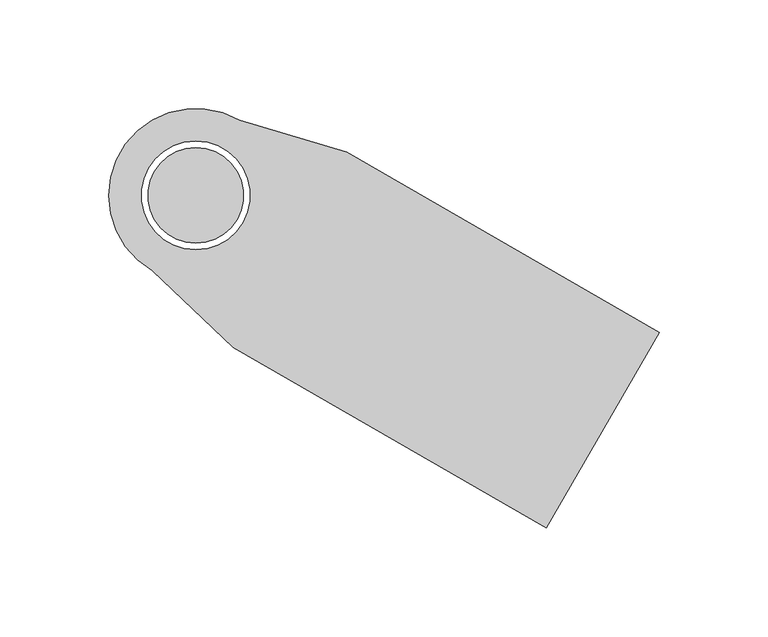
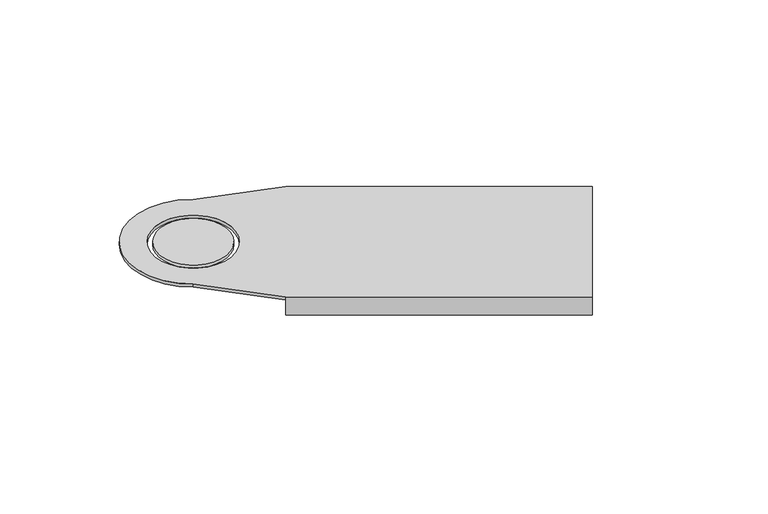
"""IFC4 building model written with IfcOpenShell, lengths in millimetres: cable carrier fitting geometry, BAKS_LDLS_BEND_Articulated connector for LLDS_LGSU : LGSUC_H100."""

from ifc_helpers import new_model, si_unit, frame, origin, place, context, project, spatial, polyline, circle_curve, source, transform, mapped, element, save
from ifc_brep_helpers import plane_surface, cylinder_surface, revolved_surface, advanced_brep


def cable_carrier_fitting_eae05feb(model_context):
    return source(origin(), model_context, "Body", "AdvancedBrep", [
        advanced_brep(
        [(161.0614872, -153.033321, 2.0), (213.0614872, -62.966679, 2.0), (69.3012702, 20.033321, 2.0), (20.0, 34.6410162, 2.0), (-20.0, -34.6410162, 2.0), (17.3012702, -70.033321, 2.0), (-21.6506351, 12.5, 2.0), (21.6506351, -12.5, 2.0), (69.3012702, 20.033321, 0.0), (68.3012702, 18.3012702, 0.0), (212.0614872, -64.6987298, 0.0), (162.0614872, -151.3012702, 0.0), (18.3012702, -68.3012702, 0.0), (17.3012702, -70.033321, 0.0), (-20.0, -34.6410162, 0.0), (20.0, 34.6410162, 0.0), (21.6506351, -12.5, 0.0), (-21.6506351, 12.5, 0.0), (17.3012702, -70.033321, -10.0), (161.0614872, -153.033321, -10.0), (213.0614872, -62.966679, -10.0), (69.3012702, 20.033321, -10.0), (162.0614872, -151.3012702, -10.0), (212.0614872, -64.6987298, -10.0), (68.3012702, 18.3012702, -10.0), (18.3012702, -68.3012702, -10.0)],
        [
            (0, 1),
            (1, 2),
            (2, 3),
            (3, 4, circle_curve(frame((0.0, 0.0, 2.0), z_axis=(0.0, 0.0, 1.0), x_axis=(0.8660254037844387, -0.49999999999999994, 0.0)), 40.0)),
            (4, 5),
            (5, 0),
            (6, 7, circle_curve(frame((0.0, 0.0, 2.0), z_axis=(0.0, 0.0, -1.0), x_axis=(0.8660254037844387, -0.49999999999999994, 0.0)), 25.0)),
            (7, 6, circle_curve(frame((0.0, 0.0, 2.0), z_axis=(0.0, 0.0, -1.0), x_axis=(0.8660254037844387, -0.49999999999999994, 0.0)), 25.0)),
            (8, 9),
            (9, 10),
            (10, 11),
            (11, 12),
            (12, 13),
            (13, 14),
            (14, 15, circle_curve(frame((0.0, 0.0, 0.0), z_axis=(0.0, 0.0, -1.0), x_axis=(0.8660254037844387, -0.49999999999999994, 0.0)), 40.0)),
            (15, 8),
            (16, 17, circle_curve(frame((0.0, 0.0, 0.0), z_axis=(0.0, 0.0, 1.0), x_axis=(0.8660254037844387, -0.49999999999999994, 0.0)), 25.0)),
            (17, 16, circle_curve(frame((0.0, 0.0, 0.0), z_axis=(0.0, 0.0, 1.0), x_axis=(0.8660254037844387, -0.49999999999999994, 0.0)), 25.0)),
            (5, 13),
            (13, 18),
            (18, 19),
            (19, 0),
            (1, 20),
            (20, 21),
            (21, 8),
            (8, 2),
            (19, 22),
            (22, 11),
            (10, 23),
            (23, 20),
            (7, 16),
            (17, 6),
            (4, 14),
            (3, 15),
            (23, 24),
            (24, 21),
            (9, 24),
            (18, 25),
            (25, 22),
            (12, 25),
        ],
        [
            plane_surface(frame((17.3012702, -70.033321, 2.0), z_axis=(0.0, 0.0, 1.0), x_axis=(-0.8660254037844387, 0.49999999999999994, 0.0))),
            plane_surface(frame((17.3012702, -70.033321, 0.0), z_axis=(0.0, 0.0, -1.0), x_axis=(0.8660254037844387, -0.49999999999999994, 0.0))),
            plane_surface(frame((161.0614872, -153.033321, 2.0), z_axis=(-0.49999999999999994, -0.8660254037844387, 0.0), x_axis=(0.0, 0.0, -1.0))),
            plane_surface(frame((69.3012702, 20.033321, 2.0), z_axis=(0.49999999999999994, 0.8660254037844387, 0.0), x_axis=(0.0, 0.0, -1.0))),
            plane_surface(frame((213.0614872, -62.966679, 2.0), z_axis=(0.8660254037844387, -0.49999999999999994, 0.0), x_axis=(0.0, 0.0, -1.0))),
            revolved_surface(polyline([(21.65063509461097, -12.499999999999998, 2.0), (21.65063509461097, -12.499999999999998, 0.0)]), (0.0, 0.0, 0.0), (0.0, 0.0, 1.0)),
            plane_surface(frame((17.3012702, -70.033321, 2.0), z_axis=(-0.688300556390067, -0.7254256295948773, 0.0), x_axis=(0.0, 0.0, -1.0))),
            cylinder_surface(frame((0.0, 0.0, 0.0), z_axis=(0.0, 0.0, 1.0), x_axis=(0.8660254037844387, -0.49999999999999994, 0.0)), 40.0),
            plane_surface(frame((20.0, 34.6410162, 2.0), z_axis=(0.28408674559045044, 0.9587985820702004, 0.0), x_axis=(0.0, 0.0, -1.0))),
            plane_surface(frame((68.3012702, 18.3012702, -10.0), z_axis=(0.0, 0.0, -1.0), x_axis=(0.8660254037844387, -0.49999999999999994, 0.0))),
            plane_surface(frame((212.0614872, -64.6987298, 0.0), z_axis=(-0.49999999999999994, -0.8660254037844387, 0.0), x_axis=(0.0, 0.0, -1.0))),
            plane_surface(frame((68.3012702, 18.3012702, 0.0), z_axis=(-0.8660254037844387, 0.49999999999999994, 0.0), x_axis=(0.0, 0.0, -1.0))),
            plane_surface(frame((17.3012702, -70.033321, -10.0), z_axis=(0.0, 0.0, -1.0), x_axis=(0.8660254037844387, -0.49999999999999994, 0.0))),
            plane_surface(frame((17.3012702, -70.033321, 0.0), z_axis=(-0.8660254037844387, 0.49999999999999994, 0.0), x_axis=(0.0, 0.0, -1.0))),
            plane_surface(frame((18.3012702, -68.3012702, 0.0), z_axis=(0.49999999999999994, 0.8660254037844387, 0.0), x_axis=(0.0, 0.0, -1.0))),
        ],
        [
            (0, [[1, 2, 3, 4, 5, 6], [7, 8]]),
            (1, [[9, 10, 11, 12, 13, 14, 15, 16], [17, 18]]),
            (2, [[19, 20, 21, 22, -6]]),
            (3, [[23, 24, 25, 26, -2]]),
            (4, [[27, 28, -11, 29, 30, -23, -1, -22]]),
            (5, [[-8, 31, -18, 32]]),
            (5, [[-17, -31, -7, -32]]),
            (6, [[33, -14, -19, -5]]),
            (7, [[34, -15, -33, -4]]),
            (8, [[-26, -16, -34, -3]]),
            (9, [[35, 36, -24, -30]]),
            (10, [[-29, -10, 37, -35]]),
            (11, [[-37, -9, -25, -36]]),
            (12, [[-21, 38, 39, -27]]),
            (13, [[-20, -13, 40, -38]]),
            (14, [[-40, -12, -28, -39]]),
        ],
    ),
        advanced_brep(
        [(-19.0525589, 11.0, 2.0), (19.0525589, -11.0, 2.0), (19.0525589, -11.0, 0.0), (-19.0525589, 11.0, 0.0)],
        [
            (0, 1, circle_curve(frame((0.0, 0.0, 2.0), z_axis=(0.0, 0.0, 1.0), x_axis=(0.8660254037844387, -0.49999999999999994, 0.0)), 22.0)),
            (1, 0, circle_curve(frame((0.0, 0.0, 2.0), z_axis=(0.0, 0.0, 1.0), x_axis=(0.8660254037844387, -0.49999999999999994, 0.0)), 22.0)),
            (2, 3, circle_curve(frame((0.0, 0.0, 0.0), z_axis=(0.0, 0.0, -1.0), x_axis=(0.8660254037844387, -0.49999999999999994, 0.0)), 22.0)),
            (3, 2, circle_curve(frame((0.0, 0.0, 0.0), z_axis=(0.0, 0.0, -1.0), x_axis=(0.8660254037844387, -0.49999999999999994, 0.0)), 22.0)),
            (1, 2),
            (3, 0),
        ],
        [
            plane_surface(frame((17.3012702, -70.033321, 2.0), z_axis=(0.0, 0.0, 1.0), x_axis=(-0.8660254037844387, 0.49999999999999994, 0.0))),
            plane_surface(frame((17.3012702, -70.033321, 0.0), z_axis=(0.0, 0.0, -1.0), x_axis=(0.8660254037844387, -0.49999999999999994, 0.0))),
            cylinder_surface(frame((0.0, 0.0, 0.0), z_axis=(0.0, 0.0, -1.0), x_axis=(0.8660254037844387, -0.49999999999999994, 0.0)), 22.0),
        ],
        [
            (0, [[1, 2]]),
            (1, [[3, 4]]),
            (2, [[-2, 5, -4, 6]]),
            (2, [[-3, -5, -1, -6]]),
        ],
    ),
    ])


if __name__ == "__main__":
    model = new_model("IFC4")
    model_context = context("Model", 3, world=origin())
    ifc_project = project(units=[si_unit("LENGTHUNIT", "METRE", prefix="MILLI")], contexts=[model_context])
    site = spatial("IfcSite", under=ifc_project)
    building = spatial("IfcBuilding", under=site)
    placement = place(None, origin())
    cable_carrier_fitting_shape = cable_carrier_fitting_eae05feb(model_context)
    element("IfcCableCarrierFitting", 1, ObjectType="BAKS_LDLS_BEND_Articulated connector for LLDS_LGSU : LGSUC_H100", at=placement, inside=building, context=model_context, shape_type="MappedRepresentation", body=[
        mapped(cable_carrier_fitting_shape, transform((0.0, 0.0, 0.0), x_axis=(1.0, 0.0, 0.0), y_axis=(0.0, 1.0, 0.0), z_axis=(0.0, 0.0, 1.0))),
    ])
    save(model, "model.ifc")
